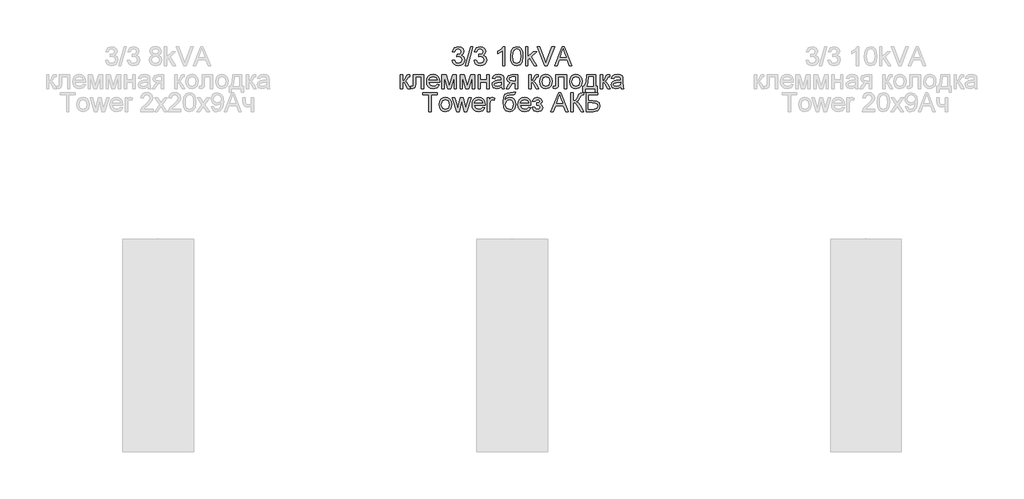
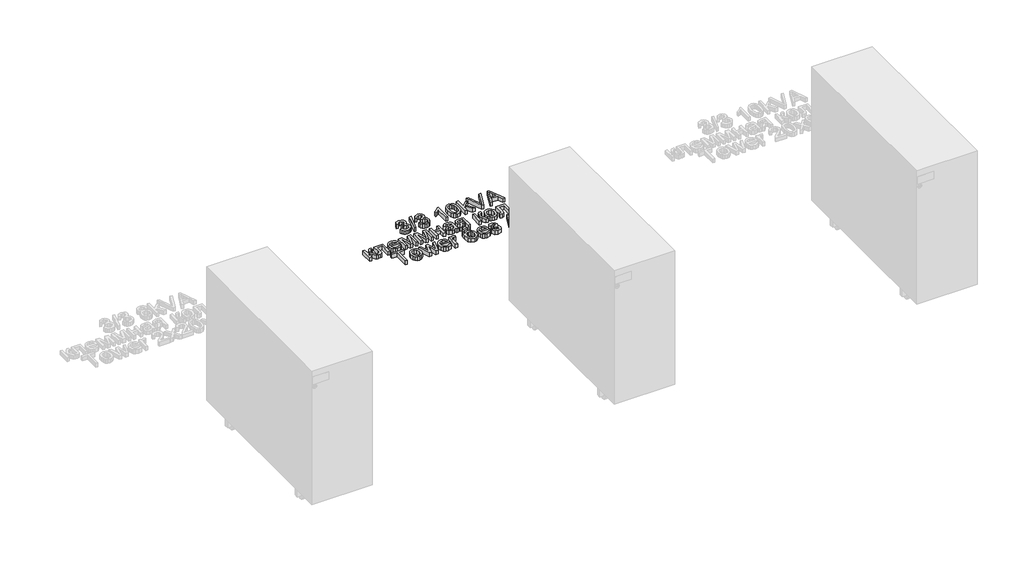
# One storey, part 22 of 74: 1 proxy.
"""IFC4 building model written with IfcOpenShell, lengths in millimetres."""

import ifcopenshell
import ifcopenshell.guid

model = None  # the IFC model being written
_history = None  # IfcOwnerHistory: only IFC2X3 demands one
_inside = {}  # id of a spatial element -> (the spatial element, [elements in it])
_under = {}  # id of a project, library or spatial element -> (it, [spatial elements below it])
_declared = {}  # id of a project -> (the project, [libraries it declares])
_typed = {}  # id of a type object -> (the type object, [elements of that type])
_made_of = {}  # id of a material, layer set ... -> (it, [elements and type objects made of it])


def new_model(schema):
    """Start an empty IFC model of exactly this schema.

    Asked for "IFC4X3", IfcOpenShell would pick the latest addendum, in which some entities
    have other attributes; the version numbers below select the first issue.
    IFC2X3 requires an IfcOwnerHistory on every rooted entity: one is made here for all.
    """
    global model, _history
    if schema == "IFC4X3":
        model = ifcopenshell.file(schema_version=(4, 3, 0, 0))
    else:
        model = ifcopenshell.file(schema=schema)
    _inside.clear()
    _under.clear()
    _declared.clear()
    _typed.clear()
    _made_of.clear()
    _history = None
    if model.schema == "IFC2X3":
        org = make("IfcOrganization", Name="unknown")
        user = make(
            "IfcPersonAndOrganization",
            ThePerson=make("IfcPerson", FamilyName="unknown"),
            TheOrganization=org,
        )
        app = make(
            "IfcApplication",
            ApplicationDeveloper=org,
            Version="unknown",
            ApplicationFullName="unknown",
            ApplicationIdentifier="unknown",
        )
        _history = make(
            "IfcOwnerHistory",
            OwningUser=user,
            OwningApplication=app,
            ChangeAction="ADDED",
            CreationDate=0,
        )
    return model


def make(cls, **values):
    """One entity of the class cls with the attributes given. An attribute that is None is left unset."""
    return model.create_entity(
        cls, **{name: value for name, value in values.items() if value is not None}
    )


def rooted(cls, **values):
    """An entity with a GlobalId (a new one), such as an element, a storey or a relation."""
    return make(cls, GlobalId=ifcopenshell.guid.new(), OwnerHistory=_history, **values)


def si_unit(unit_type, name, prefix=None):
    """IfcSIUnit, for example si_unit("LENGTHUNIT", "METRE", prefix="MILLI")."""
    return make("IfcSIUnit", UnitType=unit_type, Prefix=prefix, Name=name)


def assignment(units):
    """IfcUnitAssignment: the units of a project."""
    return None if units is None else make("IfcUnitAssignment", Units=units)


def point(xyz):
    """IfcCartesianPoint."""
    return None if xyz is None else make("IfcCartesianPoint", Coordinates=xyz)


def direction(xyz):
    """IfcDirection."""
    return None if xyz is None else make("IfcDirection", DirectionRatios=xyz)


def frame(location, z_axis=None, x_axis=None):
    """IfcAxis2Placement3D, a coordinate frame: its origin and axes. An axis left out is left unset."""
    return make(
        "IfcAxis2Placement3D",
        Location=point(location),
        Axis=direction(z_axis),
        RefDirection=direction(x_axis),
    )


def origin():
    """The frame at (0, 0, 0) with its axes left unset."""
    return frame((0.0, 0.0, 0.0))


def origin_with_axes():
    """The frame at (0, 0, 0) with the z axis (0, 0, 1) and the x axis (1, 0, 0) written out."""
    return frame((0.0, 0.0, 0.0), z_axis=(0.0, 0.0, 1.0), x_axis=(1.0, 0.0, 0.0))


def place(relative_to, where):
    """IfcLocalPlacement: puts the frame where relative to a parent placement (None: the world)."""
    return make(
        "IfcLocalPlacement", PlacementRelTo=relative_to, RelativePlacement=where
    )


def context(
    kind, dimensions, precision=None, world=None, true_north=None, identifier=None
):
    """IfcGeometricRepresentationContext, for example the 3D "Model" context."""
    return make(
        "IfcGeometricRepresentationContext",
        ContextIdentifier=identifier,
        ContextType=kind,
        CoordinateSpaceDimension=dimensions,
        Precision=precision,
        WorldCoordinateSystem=world,
        TrueNorth=true_north,
    )


def project(units=None, contexts=None):
    """IfcProject with its units and contexts."""
    return rooted(
        "IfcProject",
        Name="project",
        RepresentationContexts=contexts,
        UnitsInContext=assignment(units),
    )


def spatial(cls, under=None, at=None, **own):
    """A site, building, storey or space (cls), placed at a placement, below another one or the project."""
    s = rooted(cls, ObjectPlacement=at, **own)
    if under is not None:
        _under.setdefault(under.id(), (under, []))[1].append(s)
    return s


def polyline(points):
    """IfcPolyline through the points."""
    return make("IfcPolyline", Points=[point(p) for p in points])


def outline(outer, holes=None, kind="AREA"):
    """IfcArbitraryClosedProfileDef: a profile drawn as a closed curve; with holes, ...WithVoids."""
    if holes is None:
        return make("IfcArbitraryClosedProfileDef", ProfileType=kind, OuterCurve=outer)
    return make(
        "IfcArbitraryProfileDefWithVoids",
        ProfileType=kind,
        OuterCurve=outer,
        InnerCurves=holes,
    )


def extrude(swept, where, along, depth):
    """IfcExtrudedAreaSolid: the profile swept, set in the frame where, extruded along a direction by depth."""
    return make(
        "IfcExtrudedAreaSolid",
        SweptArea=swept,
        Position=where,
        ExtrudedDirection=direction(along),
        Depth=depth,
    )


def shape(context_of_items, identifier, shape_type, items):
    """IfcShapeRepresentation: the items that make up one representation, for example the "Body"."""
    return make(
        "IfcShapeRepresentation",
        ContextOfItems=context_of_items,
        RepresentationIdentifier=identifier,
        RepresentationType=shape_type,
        Items=items,
    )


def made_of(thing, what):
    """Note that an element or type object is made of a material, layer set ...; save() writes the relation."""
    if what is not None:
        _made_of.setdefault(what.id(), (what, []))[1].append(thing)
    return thing


def element(
    cls,
    number,
    at=None,
    inside=None,
    cuts=None,
    type_object=None,
    material=None,
    context=None,
    identifier="Body",
    shape_type=None,
    held_by="IfcProductDefinitionShape",
    body=None,
    shapes=None,
    **own,
):
    """One element of the class cls, such as IfcWall. Its Tag is "e" and its number.

    at: its placement. inside: the storey or other place that contains it. cuts: it is an
    opening in that element (IfcRelVoidsElement). A single representation is given by context,
    identifier, shape_type and body (its items); several are given by shapes. held_by: the class
    of the entity that holds the representations. save() writes the other relations.
    """
    e = rooted(cls, Tag="e%d" % number, ObjectPlacement=at, **own)
    if body is not None:
        shapes = [shape(context, identifier, shape_type, body)]
    if shapes is not None:
        e.Representation = make(held_by, Representations=shapes)
    if inside is not None:
        _inside.setdefault(inside.id(), (inside, []))[1].append(e)
    if cuts is not None:
        rooted(
            "IfcRelVoidsElement", RelatingBuildingElement=cuts, RelatedOpeningElement=e
        )
    if type_object is not None:
        _typed.setdefault(type_object.id(), (type_object, []))[1].append(e)
    return made_of(e, material)


def aggregate(whole, parts):
    """IfcRelAggregates: a whole, such as a stair, and the parts it consists of."""
    return rooted("IfcRelAggregates", RelatingObject=whole, RelatedObjects=parts)


def save(model, path):
    """Write the relations noted so far, then the file.

    IfcRelAggregates (storeys below a building ...), IfcRelContainedInSpatialStructure (elements
    in a storey), IfcRelDefinesByType, IfcRelAssociatesMaterial and IfcRelDeclares: one each for
    every whole, place, type object, material and project.
    """
    for whole, parts in _under.values():
        aggregate(whole, parts)
    for where, things in _inside.values():
        rooted(
            "IfcRelContainedInSpatialStructure",
            RelatedElements=things,
            RelatingStructure=where,
        )
    for kind, things in _typed.values():
        rooted("IfcRelDefinesByType", RelatedObjects=things, RelatingType=kind)
    for what, things in _made_of.values():
        rooted("IfcRelAssociatesMaterial", RelatedObjects=things, RelatingMaterial=what)
    for by, libraries in _declared.values():
        rooted("IfcRelDeclares", RelatingContext=by, RelatedDefinitions=libraries)
    model.write(path)


model = new_model("IFC4")

# Units and contexts
model_context = context("Model", 3, world=origin())
ifc_project = project(units=[si_unit("LENGTHUNIT", "METRE", prefix="MILLI")], contexts=[model_context])

# Site, building, storey
site = spatial("IfcSite", under=ifc_project)
building = spatial("IfcBuilding", under=site)
storey = spatial("IfcBuildingStorey", under=building, Name="Этаж 01", Elevation=0.0)

# Proxy
placement = place(None, origin())
element("IfcBuildingElementProxy", 1, Name="80 мм Arial", ObjectType="80 мм Arial", at=placement, inside=storey, context=model_context, shape_type="SweptSolid", body=[
    extrude(outline(polyline([(5598.3137414, -18752.4422861), (5608.3593724, -18751.1865822), (5613.9021278, -18761.7619633), (5624.2714949, -18764.9993249), (5636.475367, -18760.5455002), (5641.0076732, -18749.5188505), (5636.5146077, -18739.129863), (5625.0955506, -18735.0193948), (5618.0518367, -18736.1181357), (5619.1701979, -18726.0725047), (5620.7790685, -18726.1902269), (5632.1785053, -18723.3060321), (5637.2405615, -18714.4376235), (5633.5715518, -18706.5796641), (5624.114532, -18703.4698349), (5614.5397899, -18706.6090946), (5609.6150762, -18716.0268737), (5599.5694452, -18714.7711698), (5607.7903816, -18699.0160102), (5623.7613652, -18693.4242039), (5635.8769456, -18696.1808663), (5644.3529468, -18703.7150896), (5647.2861926, -18713.8490123), (5644.5000996, -18723.1098284), (5636.2595429, -18729.7611348), (5647.2077111, -18736.6282654), (5651.0533042, -18749.6954339), (5649.1305076, -18759.4860001), (5643.3621179, -18767.6676956), (5634.6555774, -18773.2006408), (5623.9183282, -18775.0449559), (5614.2062435, -18773.470421), (5606.2992332, -18768.7468161), (5600.8006236, -18761.5216138), (5598.3137414, -18752.4422861)])), origin_with_axes(), (0.0, 0.0, 1.0), 20.0),
    extrude(outline(polyline([(5654.8204158, -18773.789252), (5677.4230856, -18693.4242039), (5686.487698, -18693.4242039), (5663.8850282, -18773.789252), (5654.8204158, -18773.789252)])), origin_with_axes(), (0.0, 0.0, 1.0), 20.0),
    extrude(outline(polyline([(5691.2358282, -18752.4422861), (5701.2814593, -18751.1865822), (5706.8242147, -18761.7619633), (5717.1935818, -18764.9993249), (5729.3974539, -18760.5455002), (5733.9297601, -18749.5188505), (5729.4366946, -18739.129863), (5718.0176375, -18735.0193948), (5710.9739236, -18736.1181357), (5712.0922848, -18726.0725047), (5713.7011554, -18726.1902269), (5725.1005922, -18723.3060321), (5730.1626484, -18714.4376235), (5726.4936387, -18706.5796641), (5717.0366188, -18703.4698349), (5707.4618768, -18706.6090946), (5702.5371631, -18716.0268737), (5692.4915321, -18714.7711698), (5700.7124684, -18699.0160102), (5716.6834521, -18693.4242039), (5728.7990325, -18696.1808663), (5737.2750337, -18703.7150896), (5740.2082794, -18713.8490123), (5737.4221865, -18723.1098284), (5729.1816298, -18729.7611348), (5740.129798, -18736.6282654), (5743.9753911, -18749.6954339), (5742.0525945, -18759.4860001), (5736.2842048, -18767.6676956), (5727.5776643, -18773.2006408), (5716.8404151, -18775.0449559), (5707.1283304, -18773.470421), (5699.2213201, -18768.7468161), (5693.7227105, -18761.5216138), (5691.2358282, -18752.4422861)])), origin_with_axes(), (0.0, 0.0, 1.0), 20.0),
    extrude(outline(polyline([(5821.8290314, -18773.789252), (5811.7834004, -18773.789252), (5811.7834004, -18711.1610212), (5802.2675195, -18717.9398601), (5791.6921384, -18723.0117265), (5791.6921384, -18713.5154659), (5806.4172284, -18704.1173072), (5815.3543083, -18693.4242039), (5821.8290314, -18693.4242039), (5821.8290314, -18773.789252)])), origin_with_axes(), (0.0, 0.0, 1.0), 20.0),
    extrude(outline(polyline([(5845.6874051, -18734.2542003), (5848.6402712, -18711.1315906), (5857.410578, -18697.7995471), (5872.0571865, -18693.4242039), (5883.7901696, -18696.0140932), (5891.8933837, -18703.4796451), (5896.6022732, -18715.3695912), (5898.4269679, -18734.2542003), (5895.5035323, -18757.2787081), (5886.7626561, -18770.6401821), (5872.0571865, -18775.0449559), (5861.619148, -18773.1319695), (5853.6925173, -18767.3930104), (5847.6886832, -18753.800997), (5845.6874051, -18734.2542003)]), holes=[polyline([(5855.7330361, -18734.2345799), (5856.9102585, -18750.0363379), (5860.4419257, -18759.1818843), (5872.0571865, -18764.9993249), (5883.6724474, -18759.1622639), (5887.2041145, -18750.0118124), (5888.3813369, -18734.2345799), (5887.2433553, -18718.7884412), (5883.8294104, -18709.5717709), (5878.5809606, -18704.9953189), (5871.9394643, -18703.4698349), (5860.5988886, -18708.8458171), (5856.9494992, -18718.6363833), (5855.7330361, -18734.2345799)])]), origin_with_axes(), (0.0, 0.0, 1.0), 20.0),
    extrude(outline(polyline([(5909.7283028, -18773.789252), (5909.7283028, -18693.4242039), (5919.7739338, -18693.4242039), (5919.7739338, -18736.608645), (5942.2981221, -18714.7711698), (5956.1893463, -18714.7711698), (5933.3904728, -18736.8833303), (5957.4450501, -18773.789252), (5945.712067, -18773.789252), (5926.1897958, -18743.8681831), (5919.7739338, -18750.0878413), (5919.7739338, -18773.789252), (5909.7283028, -18773.789252)])), origin_with_axes(), (0.0, 0.0, 1.0), 20.0),
    extrude(outline(polyline([(6032.2182919, -18773.789252), (6064.2976019, -18693.4242039), (6072.8520846, -18693.4242039), (6104.9313946, -18773.789252), (6094.3167727, -18773.789252), (6085.1148177, -18748.6751745), (6052.0152484, -18748.6751745), (6042.8329138, -18773.789252), (6032.2182919, -18773.789252)]), holes=[polyline([(6055.7038785, -18738.6295435), (6081.445808, -18738.6295435), (6074.2058903, -18718.8718278), (6068.5748432, -18703.4698349), (6063.5716481, -18717.145235), (6055.7038785, -18738.6295435)])]), origin_with_axes(), (0.0, 0.0, 1.0), 20.0),
    extrude(outline(polyline([(5991.2313326, -18773.789252), (5959.2501245, -18693.4242039), (5970.0020889, -18693.4242039), (5991.4079159, -18751.3239249), (5995.7440184, -18764.3714729), (6000.0212597, -18751.3239249), (6021.4859479, -18693.4242039), (6032.2379123, -18693.4242039), (6001.6105099, -18773.789252), (5991.2313326, -18773.789252)])), origin_with_axes(), (0.0, 0.0, 1.0), 20.0),
    extrude(outline(polyline([(5433.1886815, -18812.3510241), (5478.3940211, -18812.3510241), (5478.3940211, -18871.3102452), (5468.3483901, -18871.3102452), (5468.3483901, -18822.3966551), (5443.2343126, -18822.3966551), (5443.2343126, -18850.5518905), (5442.5574097, -18863.5405774), (5438.839349, -18869.0244717), (5430.0494219, -18871.3691063), (5421.8873467, -18870.8589766), (5421.8873467, -18861.3234753), (5426.3804121, -18861.3234753), (5430.9225285, -18860.7054335), (5432.737413, -18858.7433962), (5433.1886815, -18849.9828996), (5433.1886815, -18812.3510241)])), origin_with_axes(), (0.0, 0.0, 1.0), 20.0),
    extrude(outline(polyline([(5379.1934148, -18812.3510241), (5389.2390459, -18812.3510241), (5389.2390459, -18837.4651016), (5395.9688338, -18835.6600273), (5401.4821587, -18825.1435073), (5406.0635158, -18816.0690848), (5410.1053126, -18813.1162186), (5417.4531423, -18812.3510241), (5419.3759389, -18812.3510241), (5419.3759389, -18822.4555162), (5416.6683274, -18822.3966551), (5411.7632341, -18823.4561553), (5408.3100485, -18830.068221), (5404.2584414, -18837.219847), (5398.5783434, -18840.7220836), (5404.9157239, -18844.6314429), (5411.1353822, -18852.8670945), (5421.8873467, -18871.3691063), (5410.4682895, -18871.3691063), (5399.9321492, -18853.259502), (5394.6346485, -18845.5977463), (5389.2390459, -18843.743621), (5389.2390459, -18871.3691063), (5379.1934148, -18871.3691063), (5379.1934148, -18812.3510241)])), origin_with_axes(), (0.0, 0.0, 1.0), 20.0),
    extrude(outline(polyline([(5534.7829733, -18853.789252), (5544.6324006, -18855.0449559), (5535.4206355, -18868.0140225), (5518.2626192, -18872.6248102), (5506.4756801, -18870.6357949), (5497.4061626, -18864.6687489), (5491.6230577, -18855.1111747), (5489.695356, -18842.3505745), (5491.642678, -18829.1607787), (5497.4846441, -18819.2966362), (5506.4315342, -18813.1456492), (5517.6936284, -18811.0953202), (5528.6050084, -18813.1407441), (5537.3238116, -18819.2770158), (5543.0406979, -18829.121538), (5544.9463266, -18842.2917134), (5544.8874655, -18844.9993249), (5499.740987, -18844.9993249), (5505.5191869, -18858.046873), (5518.4588229, -18862.5791792), (5528.3082502, -18860.4797992), (5534.7829733, -18853.789252)]), holes=[polyline([(5499.740987, -18834.9536939), (5534.9006956, -18834.9536939), (5530.8785191, -18825.8498408), (5517.6543876, -18821.1409512), (5505.2837424, -18824.8982527), (5499.740987, -18834.9536939)])]), origin_with_axes(), (0.0, 0.0, 1.0), 20.0),
    extrude(outline(polyline([(5554.9919576, -18812.3510241), (5572.2775063, -18812.3510241), (5585.5997396, -18859.5968825), (5599.9618527, -18812.3510241), (5616.5214476, -18812.3510241), (5616.5214476, -18871.3691063), (5606.4758166, -18871.3691063), (5606.4758166, -18823.8485627), (5592.035222, -18871.3691063), (5578.8503313, -18871.3691063), (5565.0375886, -18821.5725994), (5565.0375886, -18871.3691063), (5554.9919576, -18871.3691063), (5554.9919576, -18812.3510241)])), origin_with_axes(), (0.0, 0.0, 1.0), 20.0),
    extrude(outline(polyline([(5631.5898941, -18812.3510241), (5648.8754428, -18812.3510241), (5662.1976761, -18859.5968825), (5676.5597892, -18812.3510241), (5693.1193841, -18812.3510241), (5693.1193841, -18871.3691063), (5683.073753, -18871.3691063), (5683.073753, -18823.8485627), (5668.6331585, -18871.3691063), (5655.4482678, -18871.3691063), (5641.6355251, -18821.5725994), (5641.6355251, -18871.3691063), (5631.5898941, -18871.3691063), (5631.5898941, -18812.3510241)])), origin_with_axes(), (0.0, 0.0, 1.0), 20.0),
    extrude(outline(polyline([(5708.1878306, -18812.3510241), (5718.2334616, -18812.3510241), (5718.2334616, -18834.9536939), (5744.603243, -18834.9536939), (5744.603243, -18812.3510241), (5754.648874, -18812.3510241), (5754.648874, -18871.3691063), (5744.603243, -18871.3691063), (5744.603243, -18844.9993249), (5718.2334616, -18844.9993249), (5718.2334616, -18871.3691063), (5708.1878306, -18871.3691063), (5708.1878306, -18812.3510241)])), origin_with_axes(), (0.0, 0.0, 1.0), 20.0),
    extrude(outline(polyline([(5807.3884369, -18863.834883), (5797.6469216, -18870.6431525), (5786.885147, -18872.6248102), (5772.2973996, -18867.8570595), (5767.2059128, -18855.6728078), (5769.1287094, -18847.7265567), (5774.1809554, -18841.9581671), (5781.2148592, -18838.6619444), (5789.9066844, -18837.1511757), (5807.3295757, -18833.69799), (5807.3884369, -18831.4612675), (5804.6219643, -18824.0447664), (5793.5168331, -18821.1409512), (5783.3534798, -18823.073558), (5778.5072477, -18829.9308784), (5768.4616167, -18828.6751745), (5772.8075293, -18818.864988), (5781.5582157, -18813.1162186), (5794.8117777, -18811.0953202), (5806.9862192, -18812.8807742), (5813.86316, -18817.3640294), (5816.9435585, -18824.1821091), (5817.4340679, -18832.9720362), (5817.4340679, -18845.4702138), (5817.9441976, -18862.9225357), (5819.9454756, -18871.3691063), (5809.8998446, -18871.3691063), (5807.3884369, -18863.834883)]), holes=[polyline([(5807.3884369, -18843.743621), (5791.1820087, -18846.8240196), (5782.5392344, -18848.4525105), (5778.6249699, -18851.1012609), (5777.2515438, -18854.9664744), (5780.2436507, -18860.4013178), (5789.0237677, -18862.5791792), (5799.1871209, -18860.1756835), (5805.7403255, -18854.3582428), (5807.3295757, -18846.5885751), (5807.3884369, -18843.743621)])]), origin_with_axes(), (0.0, 0.0, 1.0), 20.0),
    extrude(outline(polyline([(5876.4521501, -18812.3510241), (5876.4521501, -18871.3691063), (5866.4065191, -18871.3691063), (5866.4065191, -18848.7664365), (5860.932435, -18848.7664365), (5853.4766932, -18850.0417608), (5846.47222, -18858.6158638), (5838.4671078, -18871.3691063), (5826.8518469, -18871.3691063), (5836.9367187, -18855.2411596), (5845.4912014, -18846.8828807), (5833.797459, -18840.7809447), (5829.9911066, -18829.4011283), (5835.1905055, -18817.079534), (5850.2393317, -18812.3510241), (5876.4521501, -18812.3510241)]), holes=[polyline([(5866.4065191, -18822.3966551), (5853.1627672, -18822.3966551), (5842.4402334, -18824.7216693), (5840.0367377, -18830.1663228), (5843.578215, -18836.6508561), (5856.1254436, -18838.7208055), (5866.4065191, -18838.7208055), (5866.4065191, -18822.3966551)])]), origin_with_axes(), (0.0, 0.0, 1.0), 20.0),
    extrude(outline(polyline([(5922.9131935, -18812.3510241), (5932.9588245, -18812.3510241), (5932.9588245, -18837.4651016), (5939.6886125, -18835.6600273), (5945.2019373, -18825.1435073), (5949.7832945, -18816.0690848), (5953.8250913, -18813.1162186), (5961.172921, -18812.3510241), (5963.0957176, -18812.3510241), (5963.0957176, -18822.4555162), (5960.3881061, -18822.3966551), (5955.4830128, -18823.4561553), (5952.0298272, -18830.068221), (5947.9782201, -18837.219847), (5942.2981221, -18840.7220836), (5948.6355026, -18844.6314429), (5954.8551609, -18852.8670945), (5965.6071253, -18871.3691063), (5954.1880682, -18871.3691063), (5943.6519279, -18853.259502), (5938.3544271, -18845.5977463), (5932.9588245, -18843.743621), (5932.9588245, -18871.3691063), (5922.9131935, -18871.3691063), (5922.9131935, -18812.3510241)])), origin_with_axes(), (0.0, 0.0, 1.0), 20.0),
    extrude(outline(polyline([(5969.374237, -18841.8600652), (5971.5471933, -18827.6303896), (5978.0660622, -18817.6289044), (5986.1202254, -18812.7287163), (5995.7636388, -18811.0953202), (6006.3169469, -18813.0843355), (6014.7463497, -18819.0513815), (6020.2719373, -18828.5255691), (6022.1137998, -18841.0360095), (6018.8568179, -18858.9101694), (6009.3703675, -18869.0244717), (5995.7636388, -18872.6248102), (5985.0827982, -18870.6431525), (5976.6632056, -18864.6981795), (5971.1964791, -18855.0253355), (5969.374237, -18841.8600652)]), holes=[polyline([(5979.419868, -18841.8404448), (5984.0698964, -18857.4092109), (5995.7636388, -18862.5791792), (6007.4181404, -18857.3797803), (6012.0681688, -18841.5265189), (6007.3887098, -18826.3109195), (5995.7636388, -18821.1409512), (5984.0698964, -18826.2912992), (5979.419868, -18841.8404448)])]), origin_with_axes(), (0.0, 0.0, 1.0), 20.0),
    extrude(outline(polyline([(6038.4379502, -18812.3510241), (6083.6432898, -18812.3510241), (6083.6432898, -18871.3102452), (6073.5976588, -18871.3102452), (6073.5976588, -18822.3966551), (6048.4835812, -18822.3966551), (6048.4835812, -18850.5518905), (6047.8066783, -18863.5405774), (6044.0886176, -18869.0244717), (6035.2986905, -18871.3691063), (6027.1366153, -18870.8589766), (6027.1366153, -18861.3234753), (6031.6296807, -18861.3234753), (6036.1717971, -18860.7054335), (6037.9866816, -18858.7433962), (6038.4379502, -18849.9828996), (6038.4379502, -18812.3510241)])), origin_with_axes(), (0.0, 0.0, 1.0), 20.0),
    extrude(outline(polyline([(6096.2003285, -18841.8600652), (6098.3732849, -18827.6303896), (6104.8921538, -18817.6289044), (6112.946317, -18812.7287163), (6122.5897303, -18811.0953202), (6133.1430385, -18813.0843355), (6141.5724413, -18819.0513815), (6147.0980288, -18828.5255691), (6148.9398914, -18841.0360095), (6145.6829094, -18858.9101694), (6136.1964591, -18869.0244717), (6122.5897303, -18872.6248102), (6111.9088897, -18870.6431525), (6103.4892971, -18864.6981795), (6098.0225707, -18855.0253355), (6096.2003285, -18841.8600652)]), holes=[polyline([(6106.2459596, -18841.8404448), (6110.895988, -18857.4092109), (6122.5897303, -18862.5791792), (6134.2442319, -18857.3797803), (6138.8942603, -18841.5265189), (6134.2148014, -18826.3109195), (6122.5897303, -18821.1409512), (6110.895988, -18826.2912992), (6106.2459596, -18841.8404448)])]), origin_with_axes(), (0.0, 0.0, 1.0), 20.0),
    extrude(outline(polyline([(6169.0311534, -18812.3510241), (6206.7022697, -18812.3510241), (6206.7022697, -18861.3234753), (6214.236493, -18861.3234753), (6214.236493, -18887.6932567), (6204.1908619, -18887.6932567), (6204.1908619, -18871.3691063), (6162.752634, -18871.3691063), (6162.752634, -18887.6932567), (6152.707003, -18887.6932567), (6152.707003, -18861.3234753), (6158.9855224, -18861.3234753), (6166.7453799, -18842.164181), (6169.0311534, -18812.3510241)]), holes=[polyline([(6177.8210805, -18822.3966551), (6175.4666358, -18845.2838203), (6170.2868573, -18861.3234753), (6196.6566387, -18861.3234753), (6196.6566387, -18822.3966551), (6177.8210805, -18822.3966551)])]), origin_with_axes(), (0.0, 0.0, 1.0), 20.0),
    extrude(outline(polyline([(6225.5378279, -18812.3510241), (6235.5834589, -18812.3510241), (6235.5834589, -18837.4651016), (6242.3132468, -18835.6600273), (6247.8265717, -18825.1435073), (6252.4079288, -18816.0690848), (6256.4497256, -18813.1162186), (6263.7975554, -18812.3510241), (6265.7203519, -18812.3510241), (6265.7203519, -18822.4555162), (6263.0127404, -18822.3966551), (6258.1076472, -18823.4561553), (6254.6544615, -18830.068221), (6250.6028545, -18837.219847), (6244.9227565, -18840.7220836), (6251.260137, -18844.6314429), (6257.4797952, -18852.8670945), (6268.2317597, -18871.3691063), (6256.8127025, -18871.3691063), (6246.2765622, -18853.259502), (6240.9790615, -18845.5977463), (6235.5834589, -18843.743621), (6235.5834589, -18871.3691063), (6225.5378279, -18871.3691063), (6225.5378279, -18812.3510241)])), origin_with_axes(), (0.0, 0.0, 1.0), 20.0),
    extrude(outline(polyline([(6312.1813954, -18863.834883), (6302.4398801, -18870.6431525), (6291.6781055, -18872.6248102), (6277.0903581, -18867.8570595), (6271.9988713, -18855.6728078), (6273.9216679, -18847.7265567), (6278.9739139, -18841.9581671), (6286.0078177, -18838.6619444), (6294.6996429, -18837.1511757), (6312.1225342, -18833.69799), (6312.1813954, -18831.4612675), (6309.4149228, -18824.0447664), (6298.3097916, -18821.1409512), (6288.1464383, -18823.073558), (6283.3002062, -18829.9308784), (6273.2545752, -18828.6751745), (6277.6004878, -18818.864988), (6286.3511742, -18813.1162186), (6299.6047362, -18811.0953202), (6311.7791777, -18812.8807742), (6318.6561185, -18817.3640294), (6321.736517, -18824.1821091), (6322.2270264, -18832.9720362), (6322.2270264, -18845.4702138), (6322.7371561, -18862.9225357), (6324.7384341, -18871.3691063), (6314.6928031, -18871.3691063), (6312.1813954, -18863.834883)]), holes=[polyline([(6312.1813954, -18843.743621), (6295.9749672, -18846.8240196), (6287.3321929, -18848.4525105), (6283.4179284, -18851.1012609), (6282.0445023, -18854.9664744), (6285.0366092, -18860.4013178), (6293.8167262, -18862.5791792), (6303.9800794, -18860.1756835), (6310.533284, -18854.3582428), (6312.1225342, -18846.5885751), (6312.1813954, -18843.743621)])]), origin_with_axes(), (0.0, 0.0, 1.0), 20.0),
    extrude(outline(polyline([(5499.1131351, -18968.9489606), (5499.1131351, -18898.6295435), (5472.7433537, -18898.6295435), (5472.7433537, -18888.5839125), (5535.5285475, -18888.5839125), (5535.5285475, -18898.6295435), (5509.1587661, -18898.6295435), (5509.1587661, -18968.9489606), (5499.1131351, -18968.9489606)])), origin_with_axes(), (0.0, 0.0, 1.0), 20.0),
    extrude(outline(polyline([(5543.0627708, -18939.4399195), (5545.2357271, -18925.2102439), (5551.754596, -18915.2087587), (5559.8087592, -18910.3085705), (5569.4521726, -18908.6751745), (5580.0054807, -18910.6641898), (5588.4348835, -18916.6312358), (5593.9604711, -18926.1054234), (5595.8023336, -18938.6158638), (5592.5453517, -18956.4900237), (5583.0589013, -18966.604326), (5569.4521726, -18970.2046645), (5558.771332, -18968.2230068), (5550.3517394, -18962.2780337), (5544.8850129, -18952.6051898), (5543.0627708, -18939.4399195)]), holes=[polyline([(5553.1084018, -18939.4202991), (5557.7584302, -18954.9890651), (5569.4521726, -18960.1590334), (5581.1066742, -18954.9596346), (5585.7567026, -18939.1063731), (5581.0772436, -18923.8907738), (5569.4521726, -18918.7208055), (5557.7584302, -18923.8711534), (5553.1084018, -18939.4202991)])]), origin_with_axes(), (0.0, 0.0, 1.0), 20.0),
    extrude(outline(polyline([(5616.8942347, -18968.9489606), (5598.9415933, -18909.9308784), (5609.3796318, -18909.9308784), (5619.5626054, -18944.3646331), (5622.6037632, -18956.666607), (5625.0955506, -18944.8159017), (5633.1987647, -18909.9308784), (5645.1671923, -18909.9308784), (5653.2311656, -18944.7177998), (5655.4482678, -18955.4501439), (5658.6267682, -18944.1291886), (5668.8293622, -18909.9308784), (5679.3066414, -18909.9308784), (5661.2166574, -18968.9489606), (5649.0716465, -18968.9489606), (5641.3608399, -18934.3386225), (5639.1241174, -18923.5474173), (5629.1765882, -18968.9489606), (5616.8942347, -18968.9489606)])), origin_with_axes(), (0.0, 0.0, 1.0), 20.0),
    extrude(outline(polyline([(5727.5335184, -18951.3691063), (5737.3829457, -18952.6248102), (5728.1711806, -18965.5938768), (5711.0131643, -18970.2046645), (5699.2262252, -18968.2156491), (5690.1567077, -18962.2486032), (5684.3736028, -18952.6910289), (5682.4459011, -18939.9304288), (5684.3932231, -18926.740633), (5690.2351892, -18916.8764904), (5699.1820793, -18910.7255035), (5710.4441735, -18908.6751745), (5721.3555535, -18910.7205984), (5730.0743567, -18916.8568701), (5735.791243, -18926.7013923), (5737.6968717, -18939.8715677), (5737.6380106, -18942.5791792), (5692.4915321, -18942.5791792), (5698.269732, -18955.6267273), (5711.209368, -18960.1590334), (5721.0587953, -18958.0596535), (5727.5335184, -18951.3691063)]), holes=[polyline([(5692.4915321, -18932.5335481), (5727.6512407, -18932.5335481), (5723.6290642, -18923.429695), (5710.4049327, -18918.7208055), (5698.0342875, -18922.4781069), (5692.4915321, -18932.5335481)])]), origin_with_axes(), (0.0, 0.0, 1.0), 20.0),
    extrude(outline(polyline([(5747.7425027, -18968.9489606), (5747.7425027, -18909.9308784), (5756.5324298, -18909.9308784), (5756.5324298, -18918.6619444), (5762.7717085, -18910.6175914), (5769.0502279, -18908.6751745), (5779.1350996, -18911.7751934), (5775.7800158, -18920.7809447), (5768.7166815, -18918.7208055), (5763.0365835, -18920.7024632), (5759.4166247, -18926.1961676), (5757.7881337, -18937.9291507), (5757.7881337, -18968.9489606), (5747.7425027, -18968.9489606)])), origin_with_axes(), (0.0, 0.0, 1.0), 20.0),
    extrude(outline(polyline([(5858.2444439, -18887.3282086), (5867.034371, -18887.3282086), (5864.4444818, -18895.1665476), (5859.3235644, -18898.0016915), (5847.0215905, -18898.6295435), (5830.4521854, -18900.9447475), (5824.0951845, -18908.3612485), (5821.9467537, -18921.4872781), (5830.6483891, -18911.8732953), (5841.8614324, -18908.6751745), (5852.3141861, -18910.7083356), (5860.7950924, -18916.8078191), (5866.4163293, -18926.3752035), (5868.2900749, -18938.8120675), (5864.5720142, -18956.0976162), (5855.7526565, -18966.5258445), (5841.8614324, -18970.2046645), (5825.9983607, -18965.4663444), (5817.3163456, -18953.3409538), (5814.2948082, -18927.6088345), (5816.2004369, -18908.3342705), (5821.9173231, -18896.5792145), (5831.5877145, -18890.582738), (5845.3538588, -18888.5839125), (5856.5374714, -18888.3582782), (5858.2444439, -18887.3282086)]), holes=[polyline([(5858.2444439, -18938.4981416), (5853.888721, -18924.2635609), (5848.6402712, -18920.1064944), (5841.6063675, -18918.7208055), (5834.2732531, -18920.1849758), (5828.8335046, -18924.5774869), (5824.3404392, -18940.2247344), (5829.3043936, -18955.0283059), (5841.5475064, -18960.1590334), (5848.2821994, -18958.6752427), (5853.6140358, -18954.2238706), (5858.2444439, -18938.4981416)])]), origin_with_axes(), (0.0, 0.0, 1.0), 20.0),
    extrude(outline(polyline([(5922.1676194, -18951.3691063), (5932.0170466, -18952.6248102), (5922.8052815, -18965.5938768), (5905.6472652, -18970.2046645), (5893.8603261, -18968.2156491), (5884.7908086, -18962.2486032), (5879.0077037, -18952.6910289), (5877.080002, -18939.9304288), (5879.027324, -18926.740633), (5884.8692901, -18916.8764904), (5893.8161803, -18910.7255035), (5905.0782744, -18908.6751745), (5915.9896544, -18910.7205984), (5924.7084577, -18916.8568701), (5930.4253439, -18926.7013923), (5932.3309726, -18939.8715677), (5932.2721115, -18942.5791792), (5887.125633, -18942.5791792), (5892.9038329, -18955.6267273), (5905.843469, -18960.1590334), (5915.6928962, -18958.0596535), (5922.1676194, -18951.3691063)]), holes=[polyline([(5887.125633, -18932.5335481), (5922.2853416, -18932.5335481), (5918.2631651, -18923.429695), (5905.0390337, -18918.7208055), (5892.6683884, -18922.4781069), (5887.125633, -18932.5335481)])]), origin_with_axes(), (0.0, 0.0, 1.0), 20.0),
    extrude(outline(polyline([(5956.1893463, -18942.5791792), (5956.1893463, -18932.5335481), (5964.115977, -18932.1411407), (5968.1185331, -18930.051571), (5970.0020889, -18925.6860379), (5967.480871, -18920.6141715), (5960.9767173, -18918.7208055), (5954.2567395, -18920.6043613), (5949.9108269, -18926.2550288), (5938.609492, -18924.9993249), (5946.1633356, -18912.7562121), (5959.9564579, -18908.6751745), (5974.7109784, -18913.6489391), (5980.0477199, -18925.529075), (5978.1494488, -18931.7683536), (5972.4546355, -18936.5949654), (5979.0961318, -18942.8538644), (5981.3034238, -18951.8596156), (5979.9030197, -18959.2540437), (5975.7018073, -18965.1131776), (5960.0349394, -18970.2046645), (5944.5838956, -18965.4957749), (5937.3537881, -18951.3691063), (5948.655123, -18950.1134024), (5953.1874292, -18957.5299034), (5960.9963377, -18960.1590334), (5968.3343572, -18957.6378155), (5971.2577928, -18951.1925229), (5969.4429083, -18945.9146426), (5965.5776948, -18943.0893089), (5958.1513836, -18942.520318), (5956.1893463, -18942.5791792)])), origin_with_axes(), (0.0, 0.0, 1.0), 20.0),
    extrude(outline(polyline([(6017.1498454, -18968.9489606), (6049.2291554, -18888.5839125), (6057.7836381, -18888.5839125), (6089.862948, -18968.9489606), (6079.2483262, -18968.9489606), (6070.0463712, -18943.834883), (6036.9468018, -18943.834883), (6027.7644672, -18968.9489606), (6017.1498454, -18968.9489606)]), holes=[polyline([(6040.635432, -18933.789252), (6066.3773615, -18933.789252), (6059.1374438, -18914.0315363), (6053.5063967, -18898.6295435), (6048.5032016, -18912.3049435), (6040.635432, -18933.789252)])]), origin_with_axes(), (0.0, 0.0, 1.0), 20.0),
    extrude(outline(polyline([(6100.5952921, -18888.5839125), (6110.6409231, -18888.5839125), (6110.6409231, -18923.743621), (6121.8735867, -18921.0850605), (6129.7119257, -18907.6352947), (6135.2546811, -18896.4026311), (6141.5332005, -18890.8402554), (6150.5095212, -18888.5839125), (6157.1019666, -18888.7016347), (6157.1019666, -18898.7472657), (6154.8848644, -18898.6884046), (6152.6677622, -18898.6295435), (6144.819613, -18901.0428494), (6138.8550196, -18911.382786), (6131.7426344, -18923.9790655), (6124.8068325, -18928.1385846), (6132.5617849, -18932.6807009), (6140.2088253, -18942.147531), (6157.1019666, -18968.9489606), (6145.447465, -18968.9489606), (6131.1638334, -18946.30705), (6121.1083922, -18934.4857753), (6110.6409231, -18931.2778443), (6110.6409231, -18968.9489606), (6100.5952921, -18968.9489606), (6100.5952921, -18888.5839125)])), origin_with_axes(), (0.0, 0.0, 1.0), 20.0),
    extrude(outline(polyline([(6165.8918937, -18888.5839125), (6216.1200488, -18888.5839125), (6216.1200488, -18898.6295435), (6175.9375247, -18898.6295435), (6175.9375247, -18922.4879171), (6194.7534625, -18922.4879171), (6211.3326777, -18924.5284359), (6221.2017254, -18932.2392426), (6224.9099759, -18945.4241333), (6222.2710357, -18956.8726209), (6214.3934559, -18965.5742564), (6196.5585368, -18968.9489606), (6165.8918937, -18968.9489606), (6165.8918937, -18888.5839125)]), holes=[polyline([(6175.9375247, -18958.9033296), (6197.461074, -18958.9033296), (6210.5086221, -18955.5874865), (6214.8643449, -18945.6399574), (6212.3725575, -18937.7721878), (6205.4367556, -18933.5734279), (6190.2996378, -18932.5335481), (6175.9375247, -18932.5335481), (6175.9375247, -18958.9033296)])]), origin_with_axes(), (0.0, 0.0, 1.0), 20.0),
])

save(model, "model.ifc")
